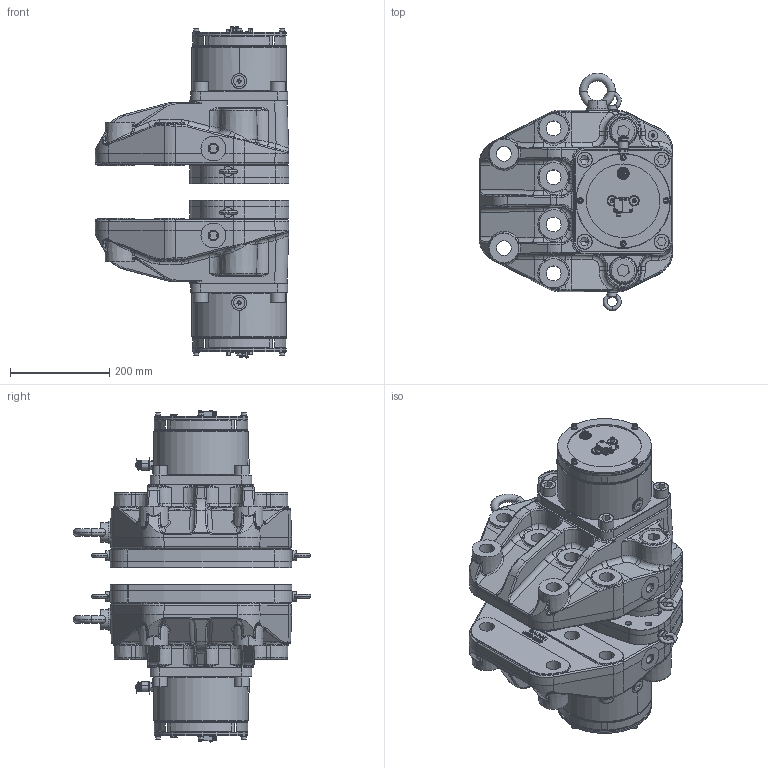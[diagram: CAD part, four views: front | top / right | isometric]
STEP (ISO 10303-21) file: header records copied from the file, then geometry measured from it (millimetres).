
FILE_DESCRIPTION (( 'STEP AP214' ), '1' );
FILE_NAME ('5308-SH.STEP', '2019-12-11T21:39:36', ( '' ), ( '' ), 'SwSTEP 2.0', 'SolidWorks 2019', '' );
FILE_SCHEMA (( 'AUTOMOTIVE_DESIGN' ));
Length unit declared in the file: inch
Products named in the file (1): 5308-SH
Bounding box: 390 x 478.4 x 668.44 mm (x, y, z)
Surface area: 1899142.4 mm2 (no closed solid volume)
Topology: 0 solids, 171 shells, 2022 faces, 7660 edges, 5626 vertices
Faces by surface type: cylinder 640, plane 585, bspline 525, cone 188, torus 84
Entity records: 136355 total; most frequent: CARTESIAN_POINT 51320, ORIENTED_EDGE 11616, DIRECTION 10949, EDGE_CURVE 7617, VERTEX_POINT 5626, AXIS2_PLACEMENT_3D 4266, CIRCLE 2768, EDGE_LOOP 2616
